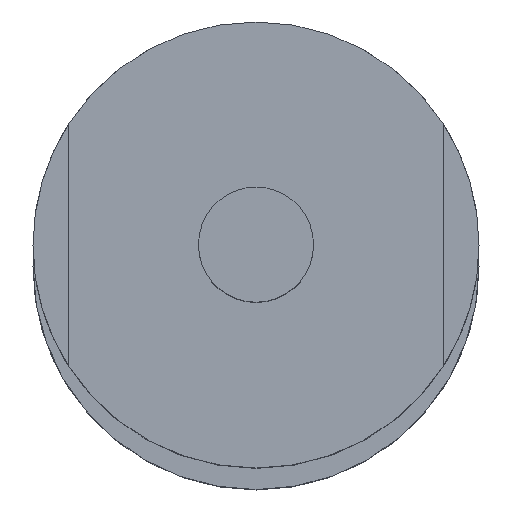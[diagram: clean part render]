
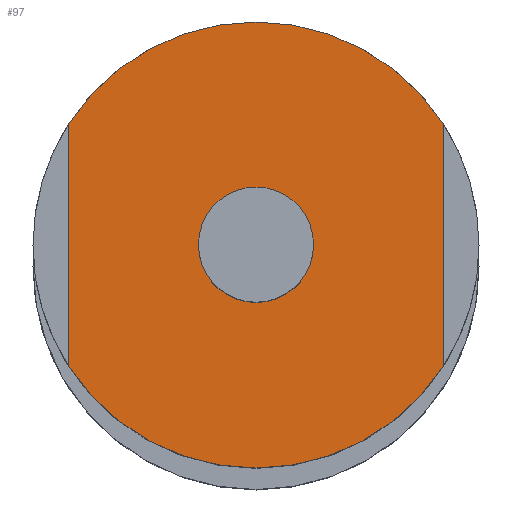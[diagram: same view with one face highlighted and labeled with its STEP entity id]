
A CAD part, top view. The second image highlights one B-rep face of the part: STEP entity #97.
In plain terms, the highlighted planar face has unit normal (0, 0, 1).
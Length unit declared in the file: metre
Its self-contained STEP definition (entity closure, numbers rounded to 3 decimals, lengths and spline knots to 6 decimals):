
#97=ADVANCED_FACE('0:66',(#196,#197),#198,.T.);
#196=FACE_OUTER_BOUND('',#314,.T.);
#197=FACE_BOUND('',#315,.T.);
#198=PLANE('',#316);
#314=EDGE_LOOP('',(#480,#481,#482,#483));
#315=EDGE_LOOP('',(#484,#485));
#316=AXIS2_PLACEMENT_3D('',#486,#487,#488);
#480=ORIENTED_EDGE('',*,*,#678,.T.);
#481=ORIENTED_EDGE('',*,*,#655,.F.);
#482=ORIENTED_EDGE('',*,*,#674,.F.);
#483=ORIENTED_EDGE('',*,*,#684,.F.);
#484=ORIENTED_EDGE('',*,*,#669,.T.);
#485=ORIENTED_EDGE('',*,*,#667,.T.);
#486=CARTESIAN_POINT('',(0.0,0.0,3.235));
#487=DIRECTION('',(0.0,0.0,1.0));
#488=DIRECTION('',(1.0,0.0,0.0));
#655=EDGE_CURVE('0:93',#782,#784,#785,.F.);
#667=EDGE_CURVE('',#800,#804,#806,.F.);
#669=EDGE_CURVE('0:81',#804,#800,#808,.F.);
#674=EDGE_CURVE('0:168',#813,#782,#815,.F.);
#678=EDGE_CURVE('0:174',#817,#784,#821,.T.);
#684=EDGE_CURVE('0:105',#817,#813,#827,.F.);
#782=VERTEX_POINT('',#961);
#784=VERTEX_POINT('',#964);
#785=CIRCLE('',#965,0.0155);
#800=VERTEX_POINT('',#983);
#804=VERTEX_POINT('',#988);
#806=CIRCLE('',#991,0.004);
#808=CIRCLE('',#993,0.004);
#813=VERTEX_POINT('',#999);
#815=LINE('',#1002,#1003);
#817=VERTEX_POINT('',#1005);
#821=LINE('',#1011,#1012);
#827=CIRCLE('',#1018,0.0155);
#961=CARTESIAN_POINT('',(-0.013092,0.008536,3.235));
#964=CARTESIAN_POINT('',(0.012908,0.008536,3.235));
#965=AXIS2_PLACEMENT_3D('',#1155,#1156,#1157);
#983=CARTESIAN_POINT('',(0.003908,0.000095,3.235));
#988=CARTESIAN_POINT('',(-0.004092,0.000095,3.235));
#991=AXIS2_PLACEMENT_3D('',#1175,#1176,#1177);
#993=AXIS2_PLACEMENT_3D('',#1178,#1179,#1180);
#999=CARTESIAN_POINT('',(-0.013092,-0.008346,3.235));
#1002=CARTESIAN_POINT('',(-0.013092,0.000048,3.235));
#1003=VECTOR('',#1186,1.0);
#1005=CARTESIAN_POINT('',(0.012908,-0.008346,3.235));
#1011=CARTESIAN_POINT('',(0.012908,0.000048,3.235));
#1012=VECTOR('',#1189,1.0);
#1018=AXIS2_PLACEMENT_3D('',#1199,#1200,#1201);
#1155=CARTESIAN_POINT('',(-0.000092,0.000095,3.235));
#1156=DIRECTION('',(0.0,0.0,1.0));
#1157=DIRECTION('',(1.0,0.0,0.0));
#1175=CARTESIAN_POINT('',(-0.000092,0.000095,3.235));
#1176=DIRECTION('',(0.0,0.0,1.0));
#1177=DIRECTION('',(1.0,0.0,0.0));
#1178=CARTESIAN_POINT('',(-0.000092,0.000095,3.235));
#1179=DIRECTION('',(0.0,0.0,1.0));
#1180=DIRECTION('',(1.0,0.0,0.0));
#1186=DIRECTION('',(0.,-1.0,0.0));
#1189=DIRECTION('',(0.,1.0,0.0));
#1199=CARTESIAN_POINT('',(-0.000092,0.000095,3.235));
#1200=DIRECTION('',(0.0,0.0,1.0));
#1201=DIRECTION('',(1.0,0.0,0.0));
